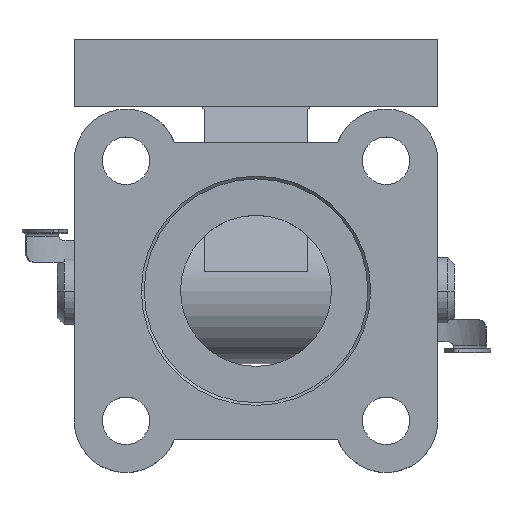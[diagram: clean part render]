
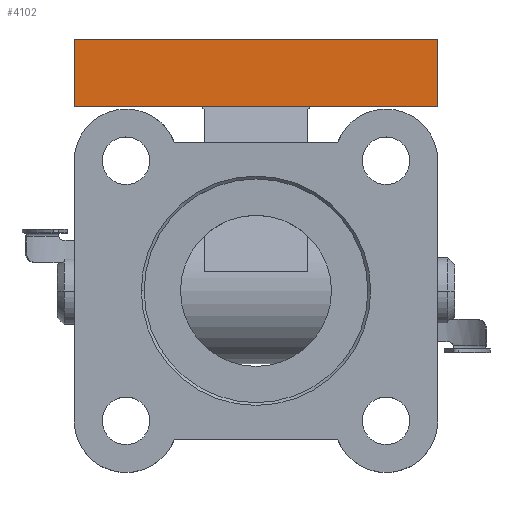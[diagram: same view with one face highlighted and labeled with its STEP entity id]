
A CAD part, top view. The second image highlights one B-rep face of the part: STEP entity #4102.
In plain terms, the highlighted planar face has unit normal (0, 0, 1) as drawn and (-1, 0, 0) by its records, which use the part's own axes.
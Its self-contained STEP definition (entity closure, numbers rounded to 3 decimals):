
#281 = DIRECTION ( 'NONE',  ( 0., 0., -1. ) ) ;
#323 = EDGE_CURVE ( 'NONE', #768, #5238, #1206, .T. ) ;
#391 = ORIENTED_EDGE ( 'NONE', *, *, #722, .F. ) ;
#482 = CARTESIAN_POINT ( 'NONE',  ( 0., 0., 12. ) ) ;
#722 = EDGE_CURVE ( 'NONE', #3693, #4265, #1729, .T. ) ;
#768 = VERTEX_POINT ( 'NONE', #4247 ) ;
#844 = CARTESIAN_POINT ( 'NONE',  ( 0., 65., 12. ) ) ;
#1206 = LINE ( 'NONE', #482, #5214 ) ;
#1327 = ORIENTED_EDGE ( 'NONE', *, *, #4216, .T. ) ;
#1375 = VERTEX_POINT ( 'NONE', #2604 ) ;
#1424 = FACE_OUTER_BOUND ( 'NONE', #3854, .T. ) ;
#1539 = CARTESIAN_POINT ( 'NONE',  ( 0., 0., 0. ) ) ;
#1565 = LINE ( 'NONE', #1539, #3667 ) ;
#1683 = EDGE_CURVE ( 'NONE', #3693, #1825, #2882, .T. ) ;
#1729 = LINE ( 'NONE', #3808, #5128 ) ;
#1825 = VERTEX_POINT ( 'NONE', #4248 ) ;
#1985 = CARTESIAN_POINT ( 'NONE',  ( 0., 42.25, 12. ) ) ;
#2091 = ORIENTED_EDGE ( 'NONE', *, *, #4092, .F. ) ;
#2134 = DIRECTION ( 'NONE',  ( 0., 0., -1. ) ) ;
#2195 = VECTOR ( 'NONE', #281, 1000. ) ;
#2324 = CARTESIAN_POINT ( 'NONE',  ( 0., 41.75, 12. ) ) ;
#2604 = CARTESIAN_POINT ( 'NONE',  ( 0., 22.75, 12. ) ) ;
#2616 = VECTOR ( 'NONE', #2875, 1000. ) ;
#2747 = LINE ( 'NONE', #2324, #3497 ) ;
#2824 = ORIENTED_EDGE ( 'NONE', *, *, #3963, .F. ) ;
#2853 = LINE ( 'NONE', #4134, #2616 ) ;
#2875 = DIRECTION ( 'NONE',  ( 0., -1., 0. ) ) ;
#2882 = LINE ( 'NONE', #4091, #2195 ) ;
#2982 = DIRECTION ( 'NONE',  ( 0., -1., 0. ) ) ;
#3055 = AXIS2_PLACEMENT_3D ( 'NONE', #3626, #3130, #3598 ) ;
#3130 = DIRECTION ( 'NONE',  ( 1., 0., 0. ) ) ;
#3212 = PLANE ( 'NONE',  #3055 ) ;
#3497 = VECTOR ( 'NONE', #4374, 1000. ) ;
#3598 = DIRECTION ( 'NONE',  ( 0., 1., 0. ) ) ;
#3626 = CARTESIAN_POINT ( 'NONE',  ( 0., 0., 12. ) ) ;
#3667 = VECTOR ( 'NONE', #5384, 1000. ) ;
#3693 = VERTEX_POINT ( 'NONE', #844 ) ;
#3808 = CARTESIAN_POINT ( 'NONE',  ( 0., 0., 12. ) ) ;
#3854 = EDGE_LOOP ( 'NONE', ( #1327, #5353, #2824, #2091, #391, #5330 ) ) ;
#3963 = EDGE_CURVE ( 'NONE', #1375, #768, #2853, .T. ) ;
#4091 = CARTESIAN_POINT ( 'NONE',  ( 0., 65., 12. ) ) ;
#4092 = EDGE_CURVE ( 'NONE', #4265, #1375, #2747, .T. ) ;
#4102 = ADVANCED_FACE ( 'NONE', ( #1424 ), #3212, .F. ) ;
#4134 = CARTESIAN_POINT ( 'NONE',  ( 0., 0., 12. ) ) ;
#4216 = EDGE_CURVE ( 'NONE', #1825, #5238, #1565, .T. ) ;
#4247 = CARTESIAN_POINT ( 'NONE',  ( 0., 0., 12. ) ) ;
#4248 = CARTESIAN_POINT ( 'NONE',  ( 0., 65., 0. ) ) ;
#4265 = VERTEX_POINT ( 'NONE', #1985 ) ;
#4374 = DIRECTION ( 'NONE',  ( 0., -1., 0. ) ) ;
#5056 = CARTESIAN_POINT ( 'NONE',  ( 0., 0., 0. ) ) ;
#5128 = VECTOR ( 'NONE', #2982, 1000. ) ;
#5214 = VECTOR ( 'NONE', #2134, 1000. ) ;
#5238 = VERTEX_POINT ( 'NONE', #5056 ) ;
#5330 = ORIENTED_EDGE ( 'NONE', *, *, #1683, .T. ) ;
#5353 = ORIENTED_EDGE ( 'NONE', *, *, #323, .F. ) ;
#5384 = DIRECTION ( 'NONE',  ( 0., -1., 0. ) ) ;
